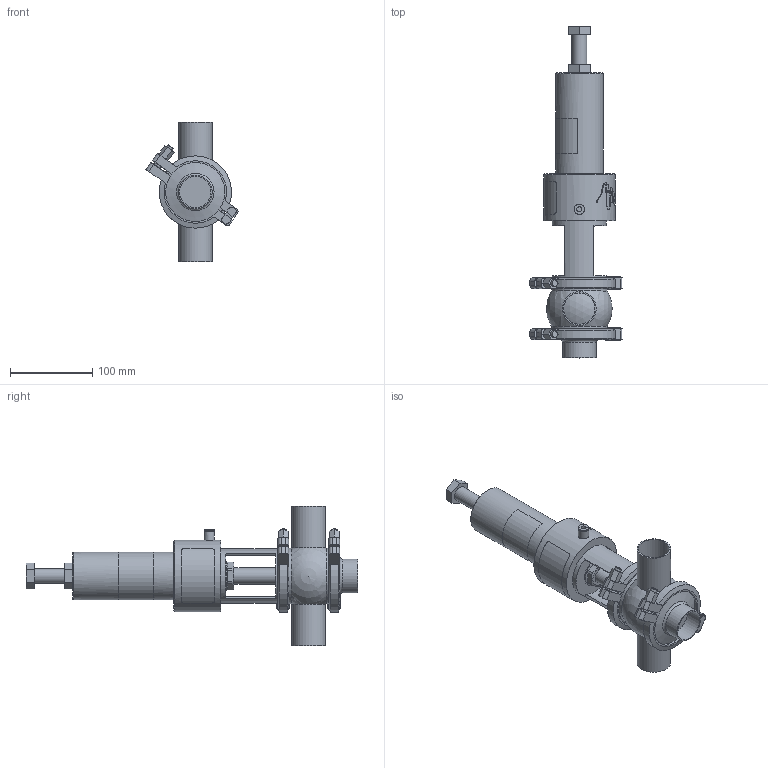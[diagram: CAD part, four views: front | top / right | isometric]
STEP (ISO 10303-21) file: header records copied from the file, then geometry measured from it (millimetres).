
FILE_DESCRIPTION (( 'STEP AP214' ), '1' );
FILE_NAME ('INNOVA J T W DIN 040_10.245.16.0002.STEP', '2024-08-08T08:01:59', ( '' ), ( '' ), 'SwSTEP 2.0', 'SolidWorks 2023', '' );
FILE_SCHEMA (( 'AUTOMOTIVE_DESIGN' ));
Length unit declared in the file: millimetre
Products named in the file (6): 10.240.15.0010_DN 040; INNOVA J T W DIN 040_10.245.16.0002; 10.240.15.0007_DIN 040; 10.245.15.0001_T1 SE NC_DN 025; 10.247.15.0001_DIN 040; 10.240.15.0001_DN 040
Assembly tree (6 placements, depth 2):
  INNOVA J T W DIN 040_10.245.16.0002
    10.240.15.0007_DIN 040
    10.247.15.0001_DIN 040
    10.240.15.0010_DN 040
    10.245.15.0001_T1 SE NC_DN 025
    10.240.15.0001_DN 040  x2
Bounding box: 112.12 x 404 x 170 mm (x, y, z)
Volume: 1161036.1 mm3; surface area: 187147 mm2
Topology: 6 solids, 6 shells, 381 faces, 1007 edges, 663 vertices
Faces by surface type: plane 191, cylinder 82, bspline 78, cone 25, sphere 3, torus 2
Full cylindrical faces by diameter (mm): 6.15 x1, 8 x4, 10.5 x1, 12.5 x2, 18 x1, 20 x1, 36.5 x1, 38 x3, 41 x3, 58 x1, 66 x1, 67.5 x2, 79.5 x4, 87 x1
Entity records: 18924 total; most frequent: CARTESIAN_POINT 9955, ORIENTED_EDGE 1582, DIRECTION 1195, EDGE_CURVE 791, VERTEX_POINT 544, AXIS2_PLACEMENT_3D 445, EDGE_LOOP 393, FACE_OUTER_BOUND 350
